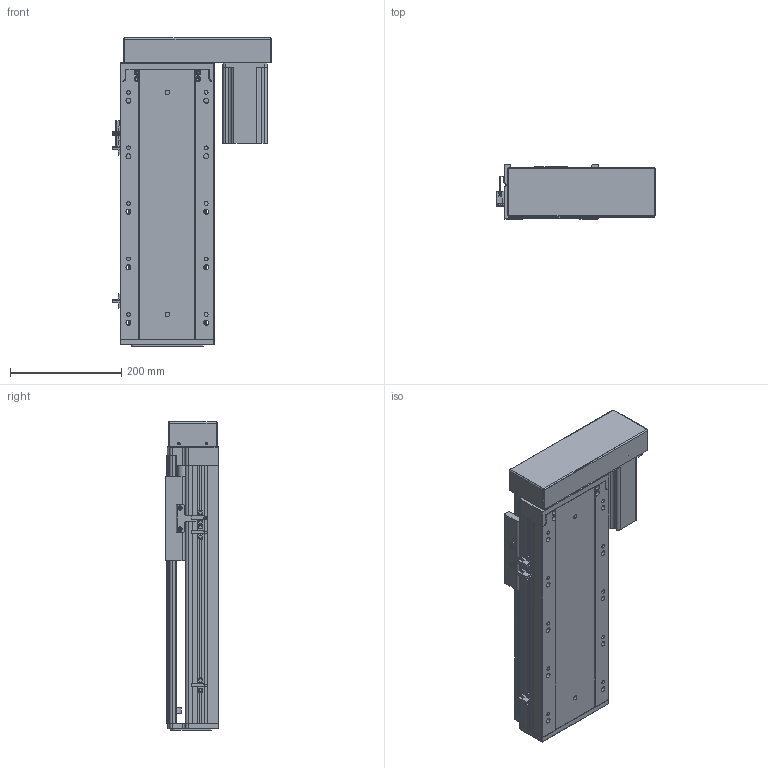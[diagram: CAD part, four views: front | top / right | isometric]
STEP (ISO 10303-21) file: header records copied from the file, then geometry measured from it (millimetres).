
FILE_DESCRIPTION (( 'STEP AP203' ), '1' );
FILE_NAME ('RY170-L2510-300-RK.SLDASM_250.step', '2021-03-12T09:18:56', ( '盈信电脑' ), ( '东莞市道滘镇水果街19号' ), 'SwSTEP 2.0', 'SolidWorks 2012', '' );
FILE_SCHEMA (( 'CONFIG_CONTROL_DESIGN' ));
Length unit declared in the file: millimetre
Products named in the file (14): 覜茼ん672; RY170外置感应片(200共用）; RY170-酘衵殏750W萇儂傷; RY170-L2510-300-RK.SLDASM_250; RY170-左右折电机安装板750W; 怢湛750W萇儂ㄗ80遺ㄘ; RY170酘衵殏萇儂欶750W; RY170綴裔啣; 滅袉蝶18-10; RY170转折电机端支撑座(7004); 滅袉蝶18-20; RY170-300倰第菁釱-RK_250; 改造-RY170铝滑块25丝杆螺母; RY170-300倰第裔啣-RK_250
Assembly tree (15 placements, depth 3):
  RY170-L2510-300-RK.SLDASM_250
    RY170-300倰第菁釱-RK_250
    改造-RY170铝滑块25丝杆螺母
    RY170-300倰第裔啣-RK_250
    RY170綴裔啣
    滅袉蝶18-20
    滅袉蝶18-10
    RY170转折电机端支撑座(7004)
    RY170-酘衵殏750W萇儂傷
      RY170-左右折电机安装板750W
      RY170酘衵殏萇儂欶750W
      怢湛750W萇儂ㄗ80遺ㄘ
    覜茼ん672  x3
    RY170外置感应片(200共用）
Bounding box: 286.2 x 97 x 555 mm (x, y, z)
Volume: 4081392.2 mm3; surface area: 1146123.3 mm2
Topology: 14 solids, 14 shells, 2031 faces, 5782 edges, 3738 vertices
Faces by surface type: plane 1082, cylinder 796, cone 134, bspline 19
Entity records: 64899 total; most frequent: CARTESIAN_POINT 15119, ORIENTED_EDGE 10388, DIRECTION 9658, EDGE_CURVE 5194, VERTEX_POINT 3418, VECTOR 3308, LINE 3308, AXIS2_PLACEMENT_3D 3175
